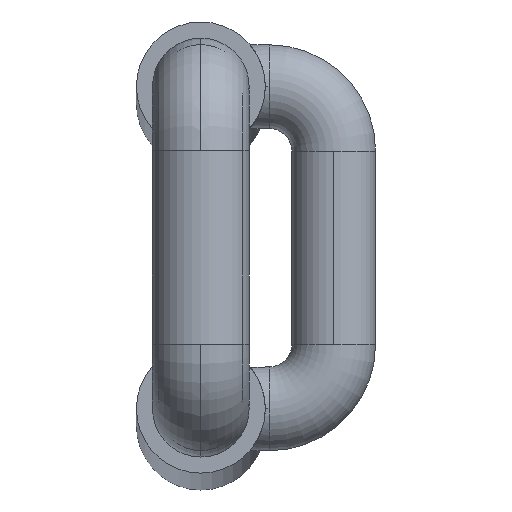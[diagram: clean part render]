
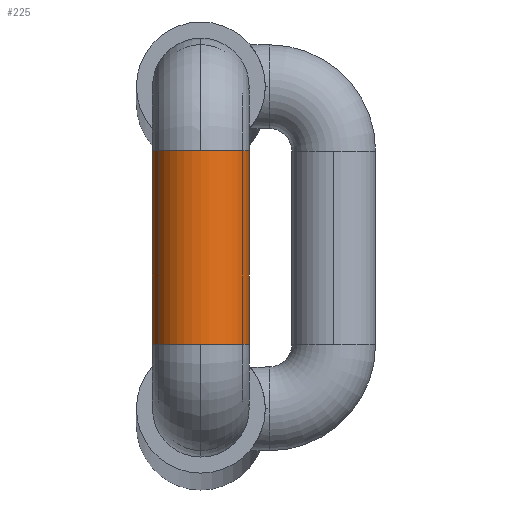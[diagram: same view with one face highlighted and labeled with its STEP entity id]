
A CAD part, top view. The second image highlights one B-rep face of the part: STEP entity #225.
In plain terms, the highlighted cylindrical face has radius 7.5 mm (diameter 15 mm), a partial arc.
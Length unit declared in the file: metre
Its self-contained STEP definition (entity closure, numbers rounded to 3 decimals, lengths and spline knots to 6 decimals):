
#225=ADVANCED_FACE('14:2709',(#314),#315,.T.);
#314=FACE_OUTER_BOUND('',#439,.T.);
#315=CYLINDRICAL_SURFACE('',#440,0.0075);
#439=EDGE_LOOP('',(#683,#684,#685,#686,#687,#688));
#440=AXIS2_PLACEMENT_3D('',#689,#690,#691);
#683=ORIENTED_EDGE('',*,*,#1066,.F.);
#684=ORIENTED_EDGE('',*,*,#1067,.F.);
#685=ORIENTED_EDGE('',*,*,#1041,.F.);
#686=ORIENTED_EDGE('',*,*,#1068,.F.);
#687=ORIENTED_EDGE('',*,*,#1049,.T.);
#688=ORIENTED_EDGE('',*,*,#1069,.T.);
#689=CARTESIAN_POINT('',(0.0,-0.01,1.51));
#690=DIRECTION('',(0.0,-1.0,0.0));
#691=DIRECTION('',(1.0,0.0,0.0));
#1041=EDGE_CURVE('14:2739',#1222,#1214,#1224,.T.);
#1049=EDGE_CURVE('14:2730',#1240,#1237,#1241,.T.);
#1066=EDGE_CURVE('',#1269,#1270,#1271,.T.);
#1067=EDGE_CURVE('14:2739',#1214,#1269,#1272,.T.);
#1068=EDGE_CURVE('',#1240,#1222,#1273,.T.);
#1069=EDGE_CURVE('14:2730',#1237,#1270,#1274,.T.);
#1214=VERTEX_POINT('',#1466);
#1222=VERTEX_POINT('',#1474);
#1224=CIRCLE('',#1476,0.0075);
#1237=VERTEX_POINT('',#1489);
#1240=VERTEX_POINT('',#1492);
#1241=CIRCLE('',#1493,0.0075);
#1269=VERTEX_POINT('',#1527);
#1270=VERTEX_POINT('',#1528);
#1271=LINE('',#1529,#1530);
#1272=CIRCLE('',#1531,0.0075);
#1273=LINE('',#1532,#1533);
#1274=CIRCLE('',#1534,0.0075);
#1466=CARTESIAN_POINT('',(0.,-0.01,1.5175));
#1474=CARTESIAN_POINT('',(-0.0075,-0.01,1.51));
#1476=AXIS2_PLACEMENT_3D('',#1950,#1951,#1952);
#1489=CARTESIAN_POINT('',(0.,-0.04,1.5175));
#1492=CARTESIAN_POINT('',(-0.0075,-0.04,1.51));
#1493=AXIS2_PLACEMENT_3D('',#1974,#1975,#1976);
#1527=CARTESIAN_POINT('',(0.0075,-0.01,1.51));
#1528=CARTESIAN_POINT('',(0.0075,-0.04,1.51));
#1529=CARTESIAN_POINT('',(0.0075,-0.01,1.51));
#1530=VECTOR('',#2013,1.0);
#1531=AXIS2_PLACEMENT_3D('',#2014,#2015,#2016);
#1532=CARTESIAN_POINT('',(-0.0075,-0.01,1.51));
#1533=VECTOR('',#2017,1.0);
#1534=AXIS2_PLACEMENT_3D('',#2018,#2019,#2020);
#1950=CARTESIAN_POINT('',(0.0,-0.01,1.51));
#1951=DIRECTION('',(0.0,1.0,0.));
#1952=DIRECTION('',(1.0,0.0,0.0));
#1974=CARTESIAN_POINT('',(0.0,-0.04,1.51));
#1975=DIRECTION('',(0.0,1.0,0.));
#1976=DIRECTION('',(1.0,0.0,0.0));
#2013=DIRECTION('',(0.0,-1.0,0.0));
#2014=CARTESIAN_POINT('',(0.0,-0.01,1.51));
#2015=DIRECTION('',(0.0,1.0,0.));
#2016=DIRECTION('',(1.0,0.0,0.0));
#2017=DIRECTION('',(-0.0,1.0,-0.0));
#2018=CARTESIAN_POINT('',(0.0,-0.04,1.51));
#2019=DIRECTION('',(0.0,1.0,0.));
#2020=DIRECTION('',(1.0,0.0,0.0));
